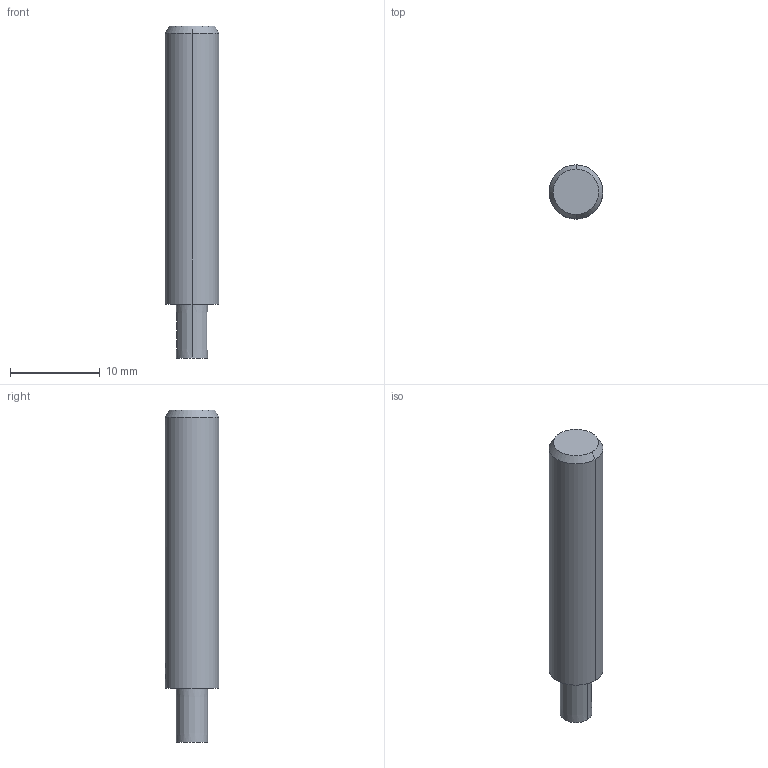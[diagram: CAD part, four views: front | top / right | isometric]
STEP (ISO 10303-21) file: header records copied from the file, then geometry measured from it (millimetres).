
FILE_DESCRIPTION(('no description'),'unknown implementation level');
FILE_NAME('solidFUSeMX_labuo0DklhWIsh5qJUKs_1.STP',' ',('CIMSOURCE GmbH'),('CADClick - KiM GmbH - www.kimweb.de'),'unknown preprocess','ACIS','unknown authorization');
FILE_SCHEMA(('automotive_design'));
Length unit declared in the file: millimetre
Products named in the file (2): NOCUT; CUT
Bounding box: 6 x 6 x 37 mm (x, y, z)
Volume: 930.7 mm3; surface area: 720.1 mm2
Topology: 2 solids, 2 shells, 23 faces, 55 edges, 36 vertices
Faces by surface type: cylinder 10, plane 9, cone 4
Entity records: 1560 total; most frequent: CARTESIAN_POINT 336, STYLED_ITEM 116, PRESENTATION_STYLE_ASSIGNMENT 116, COLOUR_RGB 116, DIRECTION 115, ORIENTED_EDGE 110, EDGE_CURVE 55, CURVE_STYLE 55
